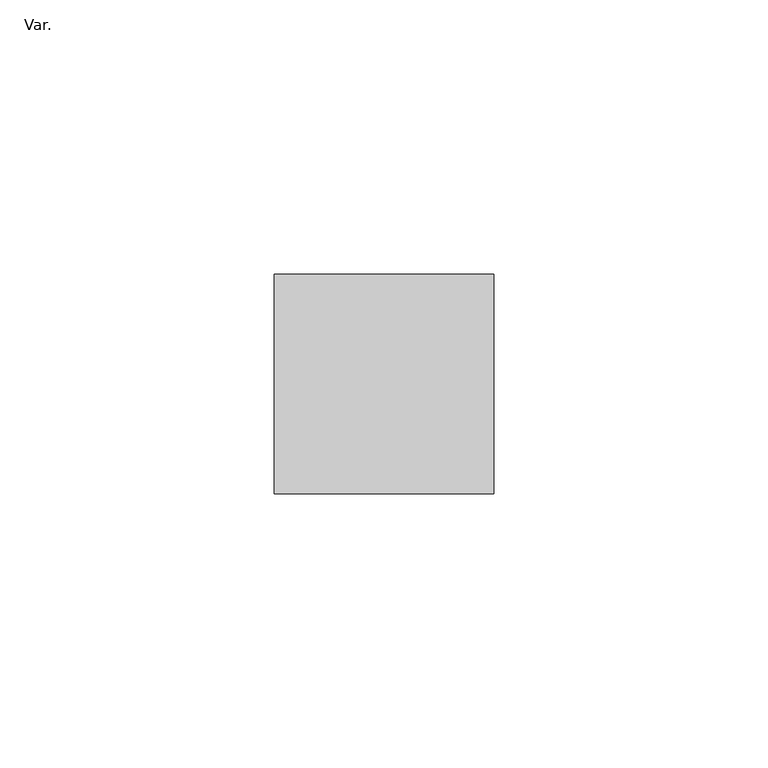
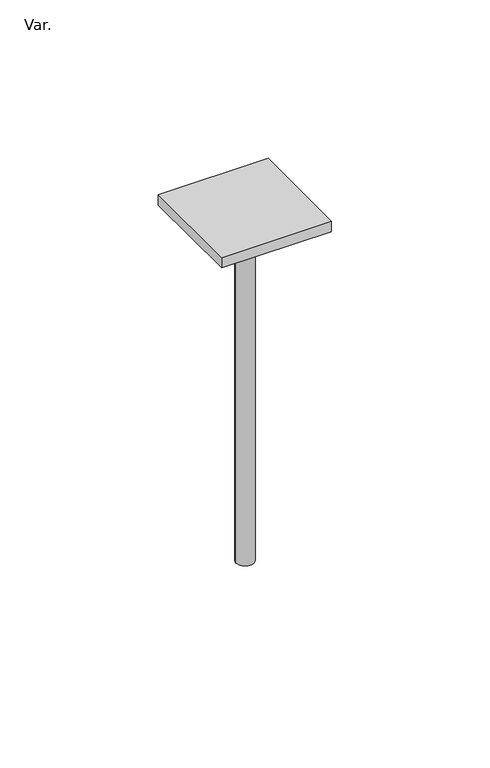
"""IFC4 building model written with IfcOpenShell, lengths in millimetres: pipe fitting geometry, AmancoWavin_ConexõesdeTubos_QSZNãoUsarBarracomBase : Var.."""

from ifc_helpers import new_model, si_unit, point, frame, origin, origin_with_axes, origin_2d, place, context, project, spatial, polyline, circle_curve, trimmed, segment, composite_curve, outline, extrude, source, transform, mapped, element, save


def var_2b31af74(model_context):
    return source(origin(), model_context, "Body", "SweptSolid", [
        extrude(outline(polyline([(20.0, 20.0), (20.0, -20.0), (-20.0, -20.0), (-20.0, 20.0), (20.0, 20.0)])), frame((0.0, 0.0, 131.756647), z_axis=(0.0, 0.0, 1.0), x_axis=(1.0, 0.0, 0.0)), (0.0, 0.0, 1.0), 4.0),
        extrude(outline(composite_curve([segment(trimmed(circle_curve(origin_2d(), 3.254375), [point((-3.254375, 0.0))], [point((3.254375, 0.0))], False, "CARTESIAN"), True, "CONTINUOUS"), segment(trimmed(circle_curve(origin_2d(), 3.254375), [point((3.254375, 0.0))], [point((-3.254375, 0.0))], False, "CARTESIAN"), True, "CONTINUOUS")], self_intersect=False)), origin_with_axes(), (0.0, 0.0, 1.0), 131.756647),
    ])


if __name__ == "__main__":
    model = new_model("IFC4")
    model_context = context("Model", 3, world=origin())
    ifc_project = project(units=[si_unit("LENGTHUNIT", "METRE", prefix="MILLI")], contexts=[model_context])
    site = spatial("IfcSite", under=ifc_project)
    building = spatial("IfcBuilding", under=site)
    placement = place(None, origin())
    var_shape = var_2b31af74(model_context)
    element("IfcPipeFitting", 1, ObjectType="AmancoWavin_ConexõesdeTubos_QSZNãoUsarBarracomBase : Var.", at=placement, inside=building, context=model_context, shape_type="MappedRepresentation", body=[
        mapped(var_shape, transform((0.0, 0.0, 0.0), x_axis=(1.0, 0.0, 0.0), y_axis=(0.0, 1.0, 0.0), z_axis=(0.0, 0.0, 1.0))),
    ])
    save(model, "model.ifc")
